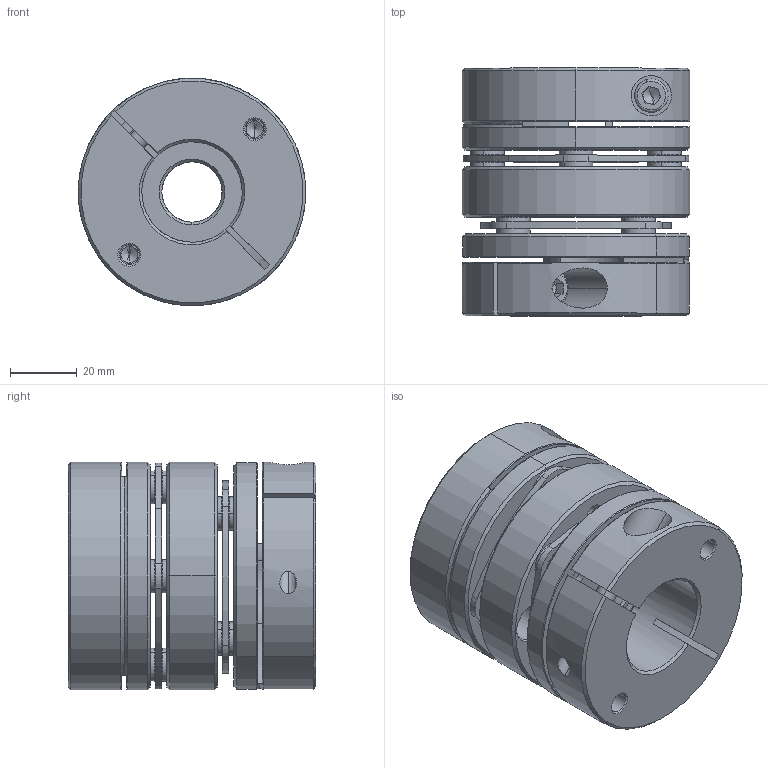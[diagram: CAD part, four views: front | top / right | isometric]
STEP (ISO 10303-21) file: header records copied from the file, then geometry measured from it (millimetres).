
FILE_DESCRIPTION (( 'STEP AP203' ), '1' );
FILE_NAME ('LD2-D68-18-30.STEP', '2021-10-26T08:26:39', ( '' ), ( '' ), 'SwSTEP 2.0', 'SolidWorks 2018', '' );
FILE_SCHEMA (( 'CONFIG_CONTROL_DESIGN' ));
Length unit declared in the file: millimetre
Products named in the file (2): LD2-D68-18-30; 錨璃102^LD2-D68
Assembly tree (1 placements, depth 2):
  LD2-D68-18-30
    錨璃102^LD2-D68
Bounding box: 68 x 74 x 68 mm (x, y, z)
Volume: 182151.1 mm3; surface area: 63936.4 mm2
Topology: 1 solids, 27 shells, 736 faces, 1708 edges, 1040 vertices
Faces by surface type: cylinder 258, cone 226, plane 222, torus 30
Entity records: 21536 total; most frequent: DIRECTION 4002, CARTESIAN_POINT 3933, ORIENTED_EDGE 3368, EDGE_CURVE 1684, AXIS2_PLACEMENT_3D 1625, VERTEX_POINT 1040, CIRCLE 885, EDGE_LOOP 872
